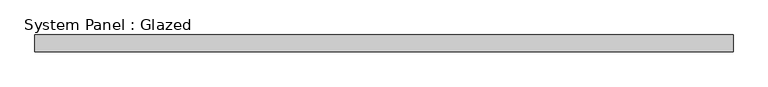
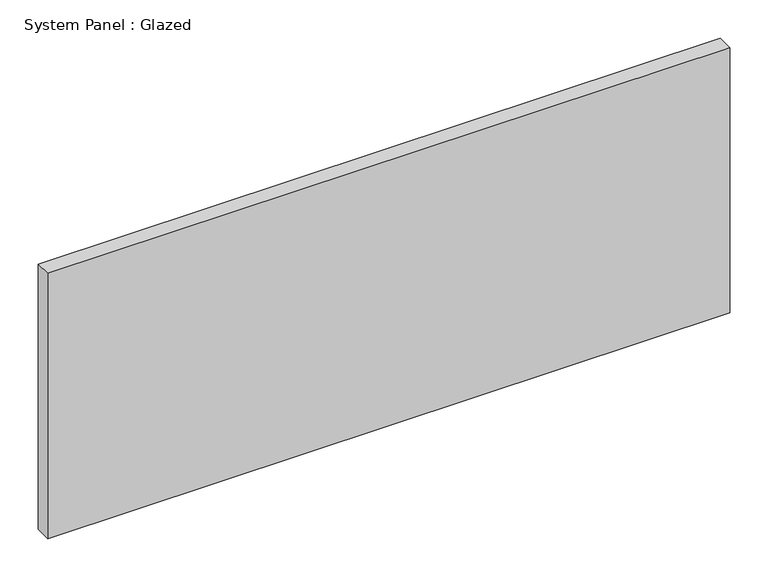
"""IFC4 building model written with IfcOpenShell, lengths in millimetres: plate geometry, System Panel : Glazed."""

from ifc_helpers import new_model, si_unit, origin, origin_with_axes, place, context, project, spatial, polyline, outline, extrude, source, transform, mapped, element, save


def system_panel_glazed_ab3019eb(model_context):
    return source(origin(), model_context, "Body", "SweptSolid", [
        extrude(outline(polyline([(517.5, -12.5), (-517.5, -12.5), (-517.5, 12.5), (517.5, 12.5), (517.5, -12.5)])), origin_with_axes(), (0.0, 0.0, 1.0), 425.0),
    ])


if __name__ == "__main__":
    model = new_model("IFC4")
    model_context = context("Model", 3, world=origin())
    ifc_project = project(units=[si_unit("LENGTHUNIT", "METRE", prefix="MILLI")], contexts=[model_context])
    site = spatial("IfcSite", under=ifc_project)
    building = spatial("IfcBuilding", under=site)
    placement = place(None, origin())
    system_panel_glazed_shape = system_panel_glazed_ab3019eb(model_context)
    element("IfcPlate", 1, ObjectType="System Panel : Glazed", at=placement, inside=building, context=model_context, shape_type="MappedRepresentation", body=[
        mapped(system_panel_glazed_shape, transform((0.0, 0.0, 0.0), x_axis=(1.0, 0.0, 0.0), y_axis=(0.0, 1.0, 0.0), z_axis=(0.0, 0.0, 1.0))),
    ])
    save(model, "model.ifc")
